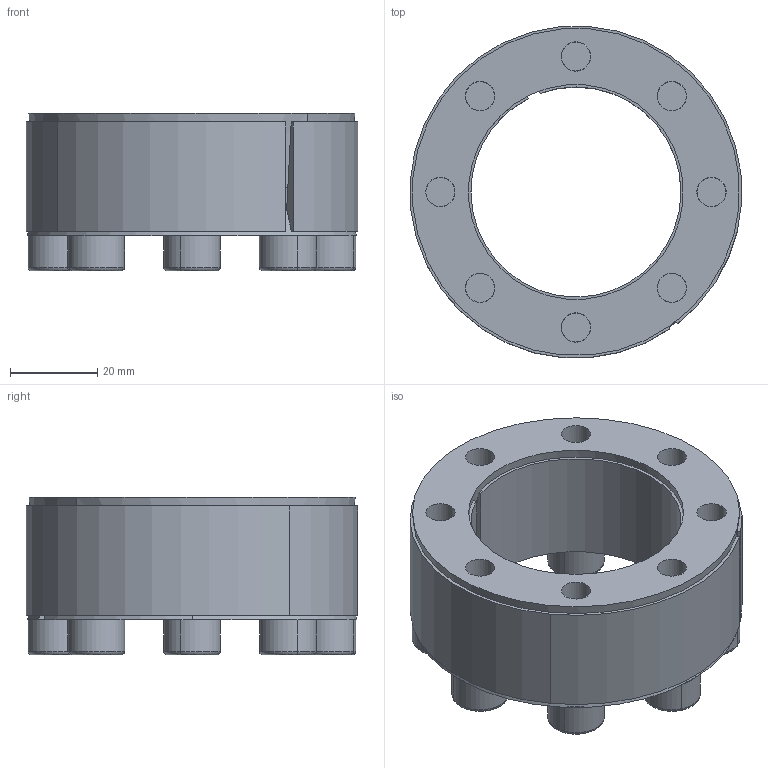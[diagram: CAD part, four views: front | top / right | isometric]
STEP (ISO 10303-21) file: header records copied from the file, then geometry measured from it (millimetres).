
FILE_DESCRIPTION (( 'STEP AP214' ), '1' );
FILE_NAME ('CONEX-L-48x76.step', '2013-04-06T13:22:56', ( 'Pc' ), ( '' ), 'SwSTEP 2.0', 'SolidWorks 2013', '' );
FILE_SCHEMA (( 'AUTOMOTIVE_DESIGN' ));
Length unit declared in the file: millimetre
Products named in the file (1): CONEX-L-48x76
Bounding box: 75.81 x 75.74 x 36.03 mm (x, y, z)
Volume: 73412.6 mm3; surface area: 48771.6 mm2
Topology: 11 solids, 11 shells, 289 faces, 663 edges, 396 vertices
Faces by surface type: plane 131, cylinder 78, cone 48, torus 32
Entity records: 11430 total; most frequent: DIRECTION 1532, CARTESIAN_POINT 1366, ORIENTED_EDGE 1294, EDGE_CURVE 647, AXIS2_PLACEMENT_3D 603, VERTEX_POINT 396, EDGE_LOOP 347, VECTOR 326
